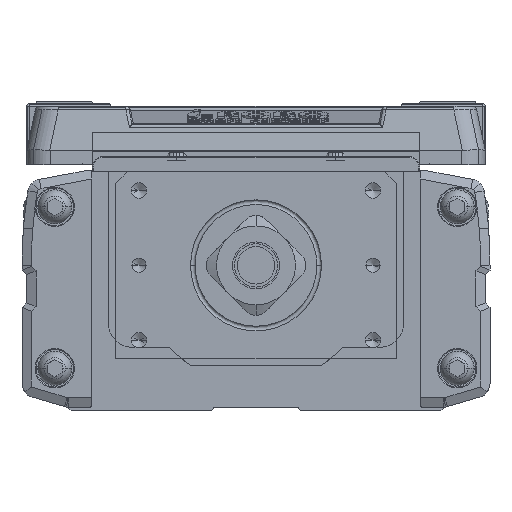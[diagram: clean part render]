
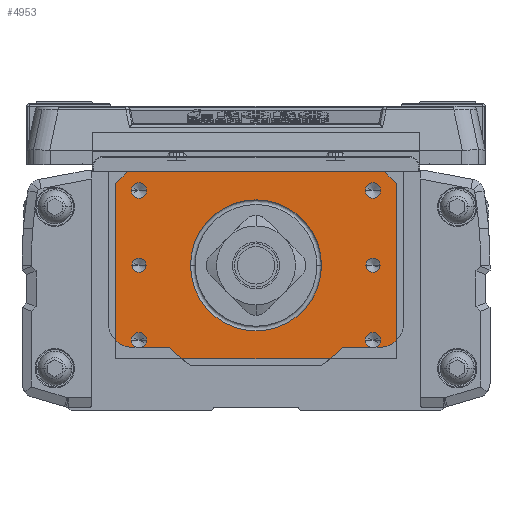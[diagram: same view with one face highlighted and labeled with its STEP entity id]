
A CAD part, left-side view. The second image highlights one B-rep face of the part: STEP entity #4953.
In plain terms, the highlighted planar face has unit normal (-1, 0, 0).
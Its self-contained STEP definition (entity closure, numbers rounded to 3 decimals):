
#4953=ADVANCED_FACE('',(#10499,#10500,#10501,#10502,#10503,#10504,#10505,#10506),#10507,.T.);
#10499=FACE_BOUND('',#17040,.T.);
#10500=FACE_BOUND('',#17041,.T.);
#10501=FACE_BOUND('',#17042,.T.);
#10502=FACE_BOUND('',#17043,.T.);
#10503=FACE_BOUND('',#17044,.T.);
#10504=FACE_BOUND('',#17045,.T.);
#10505=FACE_BOUND('',#17046,.T.);
#10506=FACE_OUTER_BOUND('',#17047,.T.);
#10507=PLANE('',#17048);
#17040=EDGE_LOOP('',(#31369,#31370));
#17041=EDGE_LOOP('',(#31371,#31372));
#17042=EDGE_LOOP('',(#31373,#31374));
#17043=EDGE_LOOP('',(#31375,#31376));
#17044=EDGE_LOOP('',(#31377,#31378));
#17045=EDGE_LOOP('',(#31379,#31380));
#17046=EDGE_LOOP('',(#31381,#31382,#31383));
#17047=EDGE_LOOP('',(#31384,#31385,#31386,#31387,#31388,#31389));
#17048=AXIS2_PLACEMENT_3D('',#31390,#31391,#31392);
#31369=ORIENTED_EDGE('',*,*,#42538,.T.);
#31370=ORIENTED_EDGE('',*,*,#38940,.T.);
#31371=ORIENTED_EDGE('',*,*,#37528,.T.);
#31372=ORIENTED_EDGE('',*,*,#42539,.T.);
#31373=ORIENTED_EDGE('',*,*,#40218,.T.);
#31374=ORIENTED_EDGE('',*,*,#38348,.T.);
#31375=ORIENTED_EDGE('',*,*,#42540,.T.);
#31376=ORIENTED_EDGE('',*,*,#41516,.T.);
#31377=ORIENTED_EDGE('',*,*,#39992,.T.);
#31378=ORIENTED_EDGE('',*,*,#42541,.T.);
#31379=ORIENTED_EDGE('',*,*,#42542,.T.);
#31380=ORIENTED_EDGE('',*,*,#42543,.T.);
#31381=ORIENTED_EDGE('',*,*,#39248,.T.);
#31382=ORIENTED_EDGE('',*,*,#42228,.T.);
#31383=ORIENTED_EDGE('',*,*,#39249,.T.);
#31384=ORIENTED_EDGE('',*,*,#36741,.F.);
#31385=ORIENTED_EDGE('',*,*,#37115,.F.);
#31386=ORIENTED_EDGE('',*,*,#42544,.T.);
#31387=ORIENTED_EDGE('',*,*,#42545,.T.);
#31388=ORIENTED_EDGE('',*,*,#42273,.F.);
#31389=ORIENTED_EDGE('',*,*,#42546,.T.);
#31390=CARTESIAN_POINT('',(-580.,0.,-20.));
#31391=DIRECTION('',(-1.0,0.,0.));
#31392=DIRECTION('',(0.,-1.0,0.));
#36741=EDGE_CURVE('',#43731,#43733,#43734,.T.);
#37115=EDGE_CURVE('',#44415,#43731,#44417,.T.);
#37528=EDGE_CURVE('',#45136,#45139,#45141,.T.);
#38348=EDGE_CURVE('',#46553,#46551,#46554,.T.);
#38940=EDGE_CURVE('',#47523,#47520,#47524,.T.);
#39248=EDGE_CURVE('',#48023,#48021,#48024,.T.);
#39249=EDGE_CURVE('',#48025,#48023,#48026,.T.);
#39992=EDGE_CURVE('',#49235,#49240,#49242,.T.);
#40218=EDGE_CURVE('',#46551,#46553,#49570,.T.);
#41516=EDGE_CURVE('',#51335,#51332,#51336,.T.);
#42228=EDGE_CURVE('',#48021,#48025,#52246,.T.);
#42273=EDGE_CURVE('',#52301,#52302,#52303,.T.);
#42538=EDGE_CURVE('',#47520,#47523,#52605,.T.);
#42539=EDGE_CURVE('',#45139,#45136,#52606,.T.);
#42540=EDGE_CURVE('',#51332,#51335,#52607,.T.);
#42541=EDGE_CURVE('',#49240,#49235,#52608,.T.);
#42542=EDGE_CURVE('',#52609,#52610,#52611,.T.);
#42543=EDGE_CURVE('',#52610,#52609,#52612,.T.);
#42544=EDGE_CURVE('',#44415,#52613,#52614,.T.);
#42545=EDGE_CURVE('',#52613,#52302,#52615,.T.);
#42546=EDGE_CURVE('',#52301,#43733,#52616,.T.);
#43731=VERTEX_POINT('',#53943);
#43733=VERTEX_POINT('',#53946);
#43734=LINE('',#53947,#53948);
#44415=VERTEX_POINT('',#54831);
#44417=LINE('',#54834,#54835);
#45136=VERTEX_POINT('',#55841);
#45139=VERTEX_POINT('',#55845);
#45141=CIRCLE('',#55848,1.5);
#46551=VERTEX_POINT('',#57797);
#46553=VERTEX_POINT('',#57800);
#46554=CIRCLE('',#57801,1.65);
#47520=VERTEX_POINT('',#59144);
#47523=VERTEX_POINT('',#59148);
#47524=CIRCLE('',#59149,1.5);
#48021=VERTEX_POINT('',#59933);
#48023=VERTEX_POINT('',#59935);
#48024=CIRCLE('',#59936,14.0);
#48025=VERTEX_POINT('',#59937);
#48026=CIRCLE('',#59938,14.0);
#49235=VERTEX_POINT('',#61585);
#49240=VERTEX_POINT('',#61591);
#49242=CIRCLE('',#61594,1.65);
#49570=CIRCLE('',#62045,1.65);
#51332=VERTEX_POINT('',#64690);
#51335=VERTEX_POINT('',#64694);
#51336=CIRCLE('',#64695,1.65);
#52246=CIRCLE('',#66042,14.0);
#52301=VERTEX_POINT('',#66138);
#52302=VERTEX_POINT('',#66139);
#52303=LINE('',#66140,#66141);
#52605=CIRCLE('',#66621,1.5);
#52606=CIRCLE('',#66622,1.5);
#52607=CIRCLE('',#66623,1.65);
#52608=CIRCLE('',#66624,1.65);
#52609=VERTEX_POINT('',#66625);
#52610=VERTEX_POINT('',#66626);
#52611=CIRCLE('',#66627,1.65);
#52612=CIRCLE('',#66628,1.65);
#52613=VERTEX_POINT('',#66629);
#52614=LINE('',#66630,#66631);
#52615=LINE('',#66632,#66633);
#52616=LINE('',#66634,#66635);
#53943=CARTESIAN_POINT('',(-580.,30.,17.5));
#53946=CARTESIAN_POINT('',(-580.,27.5,20.));
#53947=CARTESIAN_POINT('',(-580.,31.25,16.25));
#53948=VECTOR('',#68207,10.);
#54831=CARTESIAN_POINT('',(-580.,30.,-20.));
#54834=CARTESIAN_POINT('',(-580.,30.,-20.));
#54835=VECTOR('',#68756,10.0);
#55841=CARTESIAN_POINT('',(-580.,26.5,0.));
#55845=CARTESIAN_POINT('',(-580.,23.5,0.));
#55848=AXIS2_PLACEMENT_3D('',#69328,#69329,#69330);
#57797=CARTESIAN_POINT('',(-580.,-26.65,-16.));
#57800=CARTESIAN_POINT('',(-580.,-23.35,-16.));
#57801=AXIS2_PLACEMENT_3D('',#70478,#70479,#70480);
#59144=CARTESIAN_POINT('',(-580.,-26.5,0.));
#59148=CARTESIAN_POINT('',(-580.,-23.5,0.));
#59149=AXIS2_PLACEMENT_3D('',#71306,#71307,#71308);
#59933=CARTESIAN_POINT('',(-580.,14.,0.));
#59935=CARTESIAN_POINT('',(-580.,0.,-14.));
#59936=AXIS2_PLACEMENT_3D('',#71719,#71720,#71721);
#59937=CARTESIAN_POINT('',(-580.,-14.,0.));
#59938=AXIS2_PLACEMENT_3D('',#71722,#71723,#71724);
#61585=CARTESIAN_POINT('',(-580.,26.65,16.));
#61591=CARTESIAN_POINT('',(-580.,23.35,16.));
#61594=AXIS2_PLACEMENT_3D('',#72837,#72838,#72839);
#62045=AXIS2_PLACEMENT_3D('',#73107,#73108,#73109);
#64690=CARTESIAN_POINT('',(-580.,26.65,-16.));
#64694=CARTESIAN_POINT('',(-580.,23.35,-16.));
#64695=AXIS2_PLACEMENT_3D('',#74706,#74707,#74708);
#66042=AXIS2_PLACEMENT_3D('',#75644,#75645,#75646);
#66138=CARTESIAN_POINT('',(-580.,-27.5,20.));
#66139=CARTESIAN_POINT('',(-580.,-30.,17.5));
#66140=CARTESIAN_POINT('',(-580.,-31.25,16.25));
#66141=VECTOR('',#75685,10.);
#66621=AXIS2_PLACEMENT_3D('',#75928,#75929,#75930);
#66622=AXIS2_PLACEMENT_3D('',#75931,#75932,#75933);
#66623=AXIS2_PLACEMENT_3D('',#75934,#75935,#75936);
#66624=AXIS2_PLACEMENT_3D('',#75937,#75938,#75939);
#66625=CARTESIAN_POINT('',(-580.,-26.65,16.));
#66626=CARTESIAN_POINT('',(-580.,-23.35,16.));
#66627=AXIS2_PLACEMENT_3D('',#75940,#75941,#75942);
#66628=AXIS2_PLACEMENT_3D('',#75943,#75944,#75945);
#66629=CARTESIAN_POINT('',(-580.,-30.,-20.));
#66630=CARTESIAN_POINT('',(-580.,30.,-20.));
#66631=VECTOR('',#75946,10.0);
#66632=CARTESIAN_POINT('',(-580.,-30.,-20.));
#66633=VECTOR('',#75947,10.0);
#66634=CARTESIAN_POINT('',(-580.,30.,20.));
#66635=VECTOR('',#75948,10.0);
#68207=DIRECTION('',(0.,-0.707,0.707));
#68756=DIRECTION('',(0.,0.,1.0));
#69328=CARTESIAN_POINT('',(-580.,25.,0.));
#69329=DIRECTION('',(1.0,0.,0.));
#69330=DIRECTION('',(0.,1.0,0.));
#70478=CARTESIAN_POINT('',(-580.,-25.,-16.));
#70479=DIRECTION('',(1.0,0.,0.));
#70480=DIRECTION('',(0.,-1.0,0.));
#71306=CARTESIAN_POINT('',(-580.,-25.,0.));
#71307=DIRECTION('',(1.0,0.,0.));
#71308=DIRECTION('',(0.,-1.0,0.));
#71719=CARTESIAN_POINT('',(-580.,0.,0.));
#71720=DIRECTION('',(1.0,0.,0.));
#71721=DIRECTION('',(0.,0.,1.0));
#71722=CARTESIAN_POINT('',(-580.,0.,0.));
#71723=DIRECTION('',(1.0,0.,0.));
#71724=DIRECTION('',(0.,0.,1.0));
#72837=CARTESIAN_POINT('',(-580.,25.,16.));
#72838=DIRECTION('',(1.0,0.,0.));
#72839=DIRECTION('',(0.,1.0,0.));
#73107=CARTESIAN_POINT('',(-580.,-25.,-16.));
#73108=DIRECTION('',(1.0,0.,0.));
#73109=DIRECTION('',(0.,-1.0,0.));
#74706=CARTESIAN_POINT('',(-580.,25.,-16.));
#74707=DIRECTION('',(1.0,0.,0.));
#74708=DIRECTION('',(0.,1.0,0.));
#75644=CARTESIAN_POINT('',(-580.,0.,0.));
#75645=DIRECTION('',(1.0,0.,0.));
#75646=DIRECTION('',(0.,0.,1.0));
#75685=DIRECTION('',(0.0,-0.707,-0.707));
#75928=CARTESIAN_POINT('',(-580.,-25.,0.));
#75929=DIRECTION('',(1.0,0.,0.));
#75930=DIRECTION('',(0.,-1.0,0.));
#75931=CARTESIAN_POINT('',(-580.,25.,0.));
#75932=DIRECTION('',(1.0,0.,0.));
#75933=DIRECTION('',(0.,1.0,0.));
#75934=CARTESIAN_POINT('',(-580.,25.,-16.));
#75935=DIRECTION('',(1.0,0.,0.));
#75936=DIRECTION('',(0.,1.0,0.));
#75937=CARTESIAN_POINT('',(-580.,25.,16.));
#75938=DIRECTION('',(1.0,0.,0.));
#75939=DIRECTION('',(0.,1.0,0.));
#75940=CARTESIAN_POINT('',(-580.,-25.,16.));
#75941=DIRECTION('',(1.0,0.,0.));
#75942=DIRECTION('',(0.,-1.0,0.));
#75943=CARTESIAN_POINT('',(-580.,-25.,16.));
#75944=DIRECTION('',(1.0,0.,0.));
#75945=DIRECTION('',(0.,-1.0,0.));
#75946=DIRECTION('',(0.,-1.0,0.));
#75947=DIRECTION('',(0.,0.,1.0));
#75948=DIRECTION('',(0.,1.0,0.));
